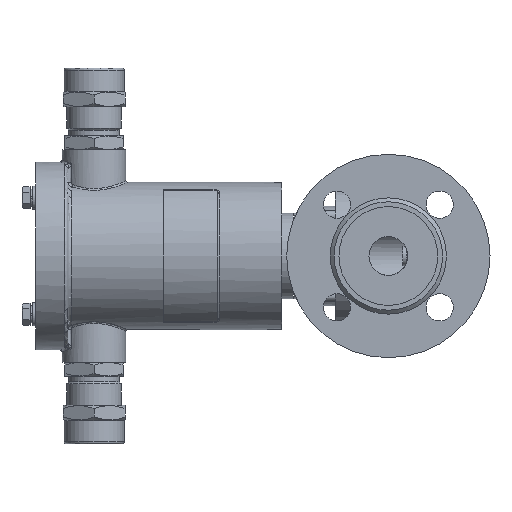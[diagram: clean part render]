
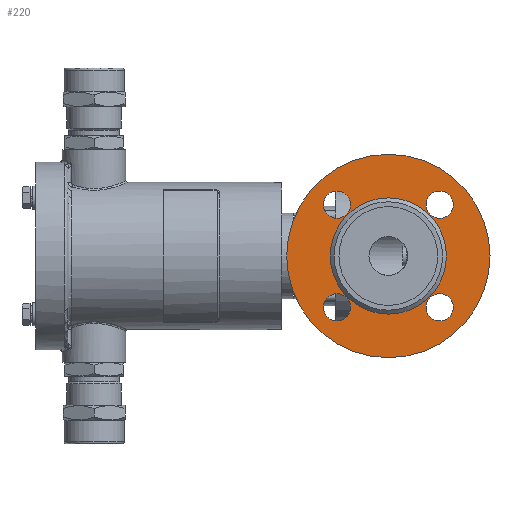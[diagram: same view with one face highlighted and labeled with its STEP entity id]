
A CAD part, left-side view. The second image highlights one B-rep face of the part: STEP entity #220.
In plain terms, the highlighted planar face has unit normal (-1, 0, 0).
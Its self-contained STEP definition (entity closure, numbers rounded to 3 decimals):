
#220=ADVANCED_FACE('',(#5905,#5907,#5909,#5911,#5913,#5915),#5917,.T.);
#5905=FACE_BOUND('',#5906,.T.);
#5906=EDGE_LOOP('',(#20576));
#5907=FACE_BOUND('',#5908,.T.);
#5908=EDGE_LOOP('',(#20577));
#5909=FACE_BOUND('',#5910,.T.);
#5910=EDGE_LOOP('',(#20578));
#5911=FACE_BOUND('',#5912,.T.);
#5912=EDGE_LOOP('',(#20579));
#5913=FACE_BOUND('',#5914,.T.);
#5914=EDGE_LOOP('',(#20580));
#5915=FACE_OUTER_BOUND('',#5916,.T.);
#5916=EDGE_LOOP('',(#20581));
#5917=PLANE('',#5918);
#5918=AXIS2_PLACEMENT_3D('',#5919,#5920,#5921);
#5919=CARTESIAN_POINT('',(-63.,0.,0.));
#5920=DIRECTION('',(-1.,-0.,-0.));
#5921=DIRECTION('',(0.,1.,0.));
#20576=ORIENTED_EDGE('',*,*,#33239,.T.);
#20577=ORIENTED_EDGE('',*,*,#33217,.T.);
#20578=ORIENTED_EDGE('',*,*,#33215,.T.);
#20579=ORIENTED_EDGE('',*,*,#33213,.T.);
#20580=ORIENTED_EDGE('',*,*,#33211,.T.);
#20581=ORIENTED_EDGE('',*,*,#33209,.F.);
#33209=EDGE_CURVE('',#37835,#37835,#37837,.T.);
#33211=EDGE_CURVE('',#37838,#37838,#37840,.F.);
#33213=EDGE_CURVE('',#37841,#37841,#37843,.F.);
#33215=EDGE_CURVE('',#37844,#37844,#37846,.F.);
#33217=EDGE_CURVE('',#37847,#37847,#37849,.F.);
#33239=EDGE_CURVE('',#37882,#37882,#37883,.T.);
#37835=VERTEX_POINT('',#47676);
#37837=CIRCLE('',#47680,52.5);
#37838=VERTEX_POINT('',#47684);
#37840=CIRCLE('',#47688,7.);
#37841=VERTEX_POINT('',#47692);
#37843=CIRCLE('',#47696,7.);
#37844=VERTEX_POINT('',#47700);
#37846=CIRCLE('',#47704,7.);
#37847=VERTEX_POINT('',#47708);
#37849=CIRCLE('',#47712,7.);
#37882=VERTEX_POINT('',#47802);
#37883=CIRCLE('',#47803,30.);
#47676=CARTESIAN_POINT('',(-63.,52.5,0.));
#47680=AXIS2_PLACEMENT_3D('',#47681,#47682,#47683);
#47681=CARTESIAN_POINT('',(-63.,0.,0.));
#47682=DIRECTION('',(1.,0.,0.));
#47683=DIRECTION('',(0.,1.,0.));
#47684=CARTESIAN_POINT('',(-63.,-26.517,-33.517));
#47688=AXIS2_PLACEMENT_3D('',#47689,#47690,#47691);
#47689=CARTESIAN_POINT('',(-63.,-26.517,-26.517));
#47690=DIRECTION('',(-1.,-0.,-0.));
#47691=DIRECTION('',(0.,0.,-1.));
#47692=CARTESIAN_POINT('',(-63.,26.517,-33.517));
#47696=AXIS2_PLACEMENT_3D('',#47697,#47698,#47699);
#47697=CARTESIAN_POINT('',(-63.,26.517,-26.517));
#47698=DIRECTION('',(-1.,-0.,-0.));
#47699=DIRECTION('',(0.,0.,-1.));
#47700=CARTESIAN_POINT('',(-63.,26.517,33.517));
#47704=AXIS2_PLACEMENT_3D('',#47705,#47706,#47707);
#47705=CARTESIAN_POINT('',(-63.,26.517,26.517));
#47706=DIRECTION('',(-1.,-0.,-0.));
#47707=DIRECTION('',(0.,0.,1.));
#47708=CARTESIAN_POINT('',(-63.,-26.517,19.517));
#47712=AXIS2_PLACEMENT_3D('',#47713,#47714,#47715);
#47713=CARTESIAN_POINT('',(-63.,-26.517,26.517));
#47714=DIRECTION('',(-1.,-0.,-0.));
#47715=DIRECTION('',(0.,0.,-1.));
#47802=CARTESIAN_POINT('',(-63.,30.,0.));
#47803=AXIS2_PLACEMENT_3D('',#47804,#47805,#47806);
#47804=CARTESIAN_POINT('',(-63.,0.,0.));
#47805=DIRECTION('',(1.,0.,0.));
#47806=DIRECTION('',(0.,1.,0.));
